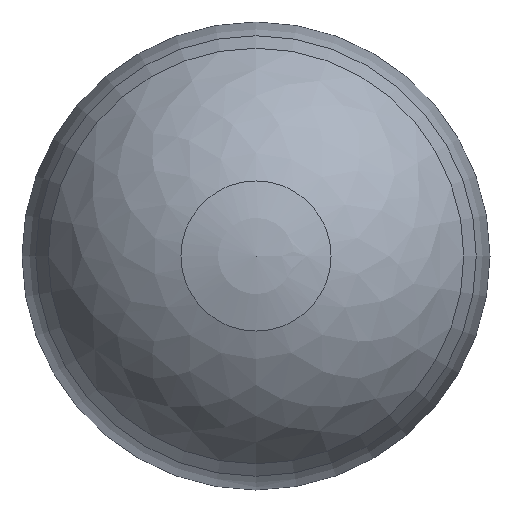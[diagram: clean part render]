
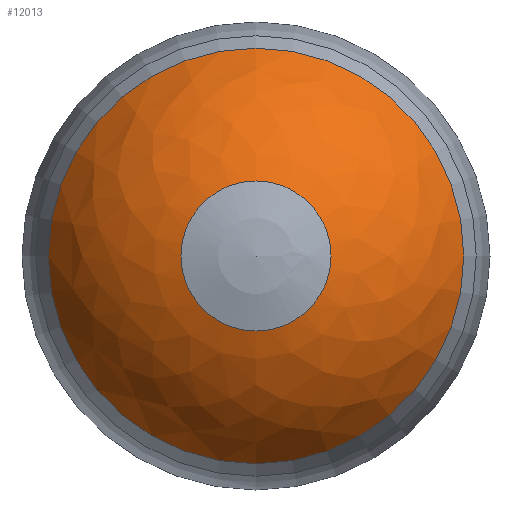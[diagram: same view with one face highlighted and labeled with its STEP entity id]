
A CAD part, front view. The second image highlights one B-rep face of the part: STEP entity #12013.
In plain terms, the highlighted face is a revolution surface.
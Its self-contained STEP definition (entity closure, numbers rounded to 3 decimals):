
#173=SURFACE_OF_REVOLUTION('',#6649,#192);
#192=AXIS1_PLACEMENT('',#235892,#93259);
#1631=FACE_BOUND('',#21989,.T.);
#1632=FACE_BOUND('',#21990,.T.);
#6649=B_SPLINE_CURVE_WITH_KNOTS('',3,(#235888,#235889,#235890,#235891),
 .UNSPECIFIED.,.F.,.F.,(4,4),(0.,1.),.UNSPECIFIED.);
#12013=ADVANCED_FACE('',(#1631,#1632),#173,.T.);
#21989=EDGE_LOOP('',(#46569));
#21990=EDGE_LOOP('',(#46570));
#25686=CIRCLE('',#76243,1509.343);
#25687=CIRCLE('',#76244,545.2);
#46569=ORIENTED_EDGE('',*,*,#63378,.F.);
#46570=ORIENTED_EDGE('',*,*,#63377,.T.);
#52933=VERTEX_POINT('',#235880);
#52934=VERTEX_POINT('',#235887);
#63377=EDGE_CURVE('',#52933,#52933,#25686,.T.);
#63378=EDGE_CURVE('',#52934,#52934,#25687,.T.);
#76243=AXIS2_PLACEMENT_3D('',#235879,#93254,#93255);
#76244=AXIS2_PLACEMENT_3D('',#235886,#93257,#93258);
#93254=DIRECTION('',(0.,-1.,0.));
#93255=DIRECTION('',(0.,0.,-1.));
#93257=DIRECTION('',(0.,-1.,0.));
#93258=DIRECTION('',(0.,0.,-1.));
#93259=DIRECTION('',(0.,-1.,0.));
#235879=CARTESIAN_POINT('',(0.,-402.229,0.));
#235880=CARTESIAN_POINT('',(0.,-402.229,-1509.343));
#235886=CARTESIAN_POINT('',(0.,-1230.204,0.));
#235887=CARTESIAN_POINT('',(0.,-1230.204,-545.2));
#235888=CARTESIAN_POINT('',(1509.343,-402.229,0.));
#235889=CARTESIAN_POINT('',(1307.089,-792.487,0.));
#235890=CARTESIAN_POINT('',(961.536,-1089.236,0.));
#235891=CARTESIAN_POINT('',(545.2,-1230.204,0.));
#235892=CARTESIAN_POINT('',(0.,0.,0.));
